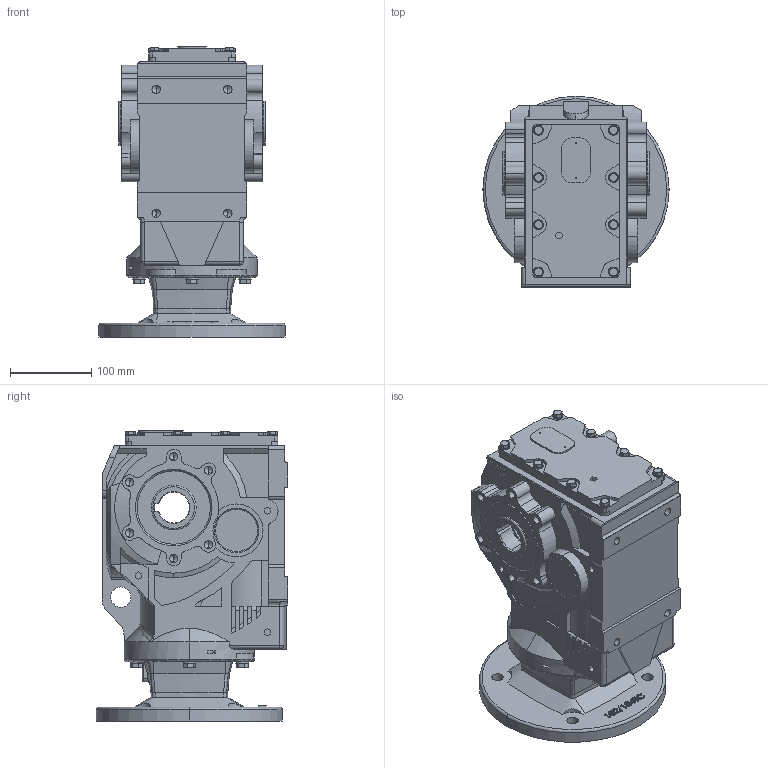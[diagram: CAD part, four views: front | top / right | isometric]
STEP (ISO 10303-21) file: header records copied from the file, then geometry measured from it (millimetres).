
FILE_DESCRIPTION (( 'STEP AP203' ), '1' );
FILE_NAME ('KAN67-182-4TC.STEP', '2022-04-09T01:27:27', ( 'user1' ), ( '' ), 'SwSTEP 2.0', 'SolidWorks 2012', '' );
FILE_SCHEMA (( 'CONFIG_CONTROL_DESIGN' ));
Length unit declared in the file: millimetre
Products named in the file (1): KAN67-182-4TC
Bounding box: 228.6 x 235.25 x 356 mm (x, y, z)
Volume: 8416419.6 mm3; surface area: 439970 mm2
Topology: 1 solids, 1 shells, 1223 faces, 3246 edges, 2084 vertices
Faces by surface type: plane 581, cylinder 358, bspline 150, cone 110, torus 21, sphere 3
Entity records: 49520 total; most frequent: CARTESIAN_POINT 20115, ORIENTED_EDGE 6420, DIRECTION 5591, EDGE_CURVE 3210, VERTEX_POINT 2084, AXIS2_PLACEMENT_3D 1902, VECTOR 1787, LINE 1787
